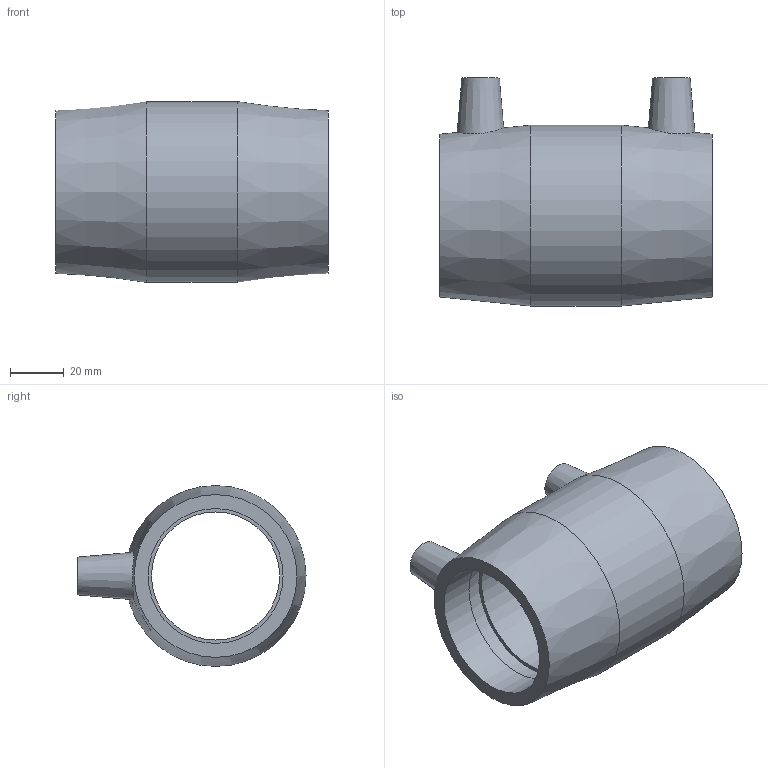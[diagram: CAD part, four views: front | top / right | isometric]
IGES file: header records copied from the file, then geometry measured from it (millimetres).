
Global section: file name: 490104050.ipt; native system: Autodesk Inventor 2015; preprocessor: unknown; author: KIM; date: 20171106.093544; units: millimetre
Bounding box: 101 x 84.5 x 67 mm (x, y, z)
Volume: 139689.8 mm3; surface area: 42137.8 mm2
Topology: 1 solids, 1 shells, 28 faces, 64 edges, 46 vertices
Faces by surface type: plane 12, revolution 9, cone 4, cylinder 3
Full cylindrical faces by diameter (mm): 4 x2, 67 x1
